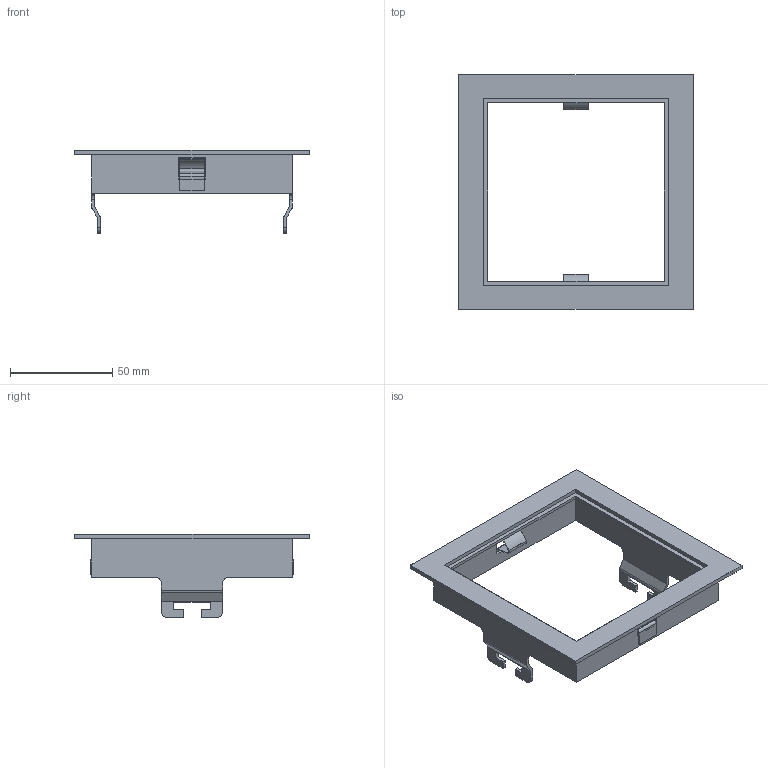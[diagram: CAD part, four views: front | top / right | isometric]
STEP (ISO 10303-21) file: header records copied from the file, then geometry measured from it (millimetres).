
FILE_DESCRIPTION(/* description */ (''),/* implementation_level */ '2;1');
FILE_NAME(/* name */ 'C:\Users\FrancoSartori\Documents\FARO\01_En Proceso\0000_2022\000_PRO\000_PODIUM\03_Publicación\01 PODIUM EMPOTRADO CON MARCO 1.stp',/* time_stamp */ '2022-05-12T13:42:07+02:00',/* author */ ('FrancoSartori'),/* organization */ (''),/* preprocessor_version */ 'ST-DEVELOPER v19',/* originating_system */ 'AutoCAD Mechanical',/* authorisation */ '');
FILE_SCHEMA (('AUTOMOTIVE_DESIGN { 1 0 10303 214 3 1 1 }'));
Length unit declared in the file: millimetre
Products named in the file (2): Product; 01 PODIUM EMPOTRADO CON MARCO 1_ - Lamp-674127-View 1
Assembly tree (1 placements, depth 2):
  Product
    01 PODIUM EMPOTRADO CON MARCO 1_ - Lamp-674127-View 1
Bounding box: 115 x 115 x 40.71 mm (x, y, z)
Volume: 23001.9 mm3; surface area: 30792.6 mm2
Topology: 3 solids, 3 shells, 102 faces, 288 edges, 192 vertices
Faces by surface type: plane 78, cylinder 24
Entity records: 3347 total; most frequent: CARTESIAN_POINT 585, ORIENTED_EDGE 576, DIRECTION 546, EDGE_CURVE 288, LINE 240, VECTOR 240, VERTEX_POINT 192, AXIS2_PLACEMENT_3D 153
